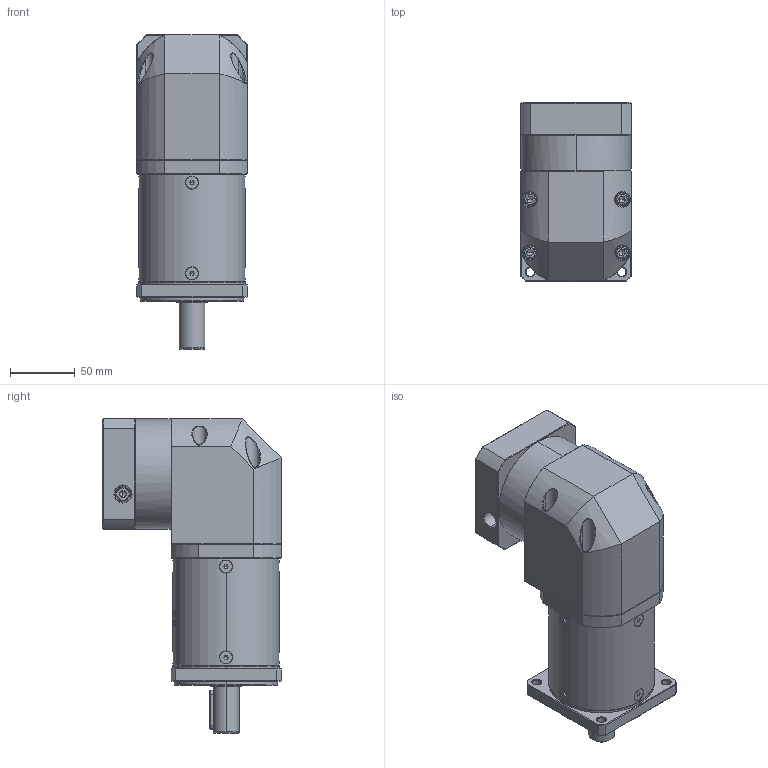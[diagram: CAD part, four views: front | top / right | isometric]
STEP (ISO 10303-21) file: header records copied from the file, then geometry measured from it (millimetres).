
FILE_DESCRIPTION (( 'STEP AP214' ), '1' );
FILE_NAME ('ZFR080-D20-L3-P2-14-73-69.6X69.6-M6.step', '2023-08-25T03:50:44', ( '' ), ( '' ), 'SwSTEP 2.0', 'SolidWorks 2016', '' );
FILE_SCHEMA (( 'AUTOMOTIVE_DESIGN' ));
Length unit declared in the file: millimetre
Products named in the file (1): ZFR080-D20-L3-P2-14-73-69.6X69.6-M6
Bounding box: 85 x 137.6 x 242.5 mm (x, y, z)
Volume: 1458965 mm3; surface area: 144962.5 mm2
Topology: 13 solids, 13 shells, 2430 faces, 6247 edges, 3923 vertices
Faces by surface type: plane 1194, cylinder 425, bspline 418, cone 359, torus 34
Entity records: 126516 total; most frequent: CARTESIAN_POINT 45944, ORIENTED_EDGE 12402, DIRECTION 9456, EDGE_CURVE 6201, VERTEX_POINT 3923, LINE 3356, VECTOR 3356, AXIS2_PLACEMENT_3D 3050
